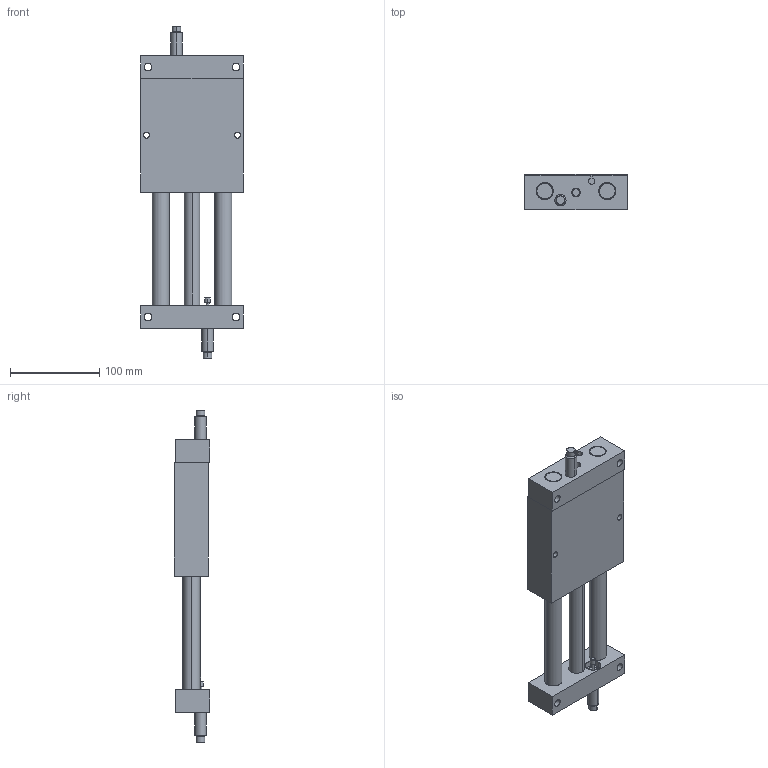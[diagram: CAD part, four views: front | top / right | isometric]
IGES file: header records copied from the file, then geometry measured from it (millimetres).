
Start section: SolidWorks IGES file using analytic representation for surfaces
Global section: file name: C:\Users\jmkuhnes\Pictures\My Transfers\AGSL\AGSL-5\AGSL-5 with SHOCKS in IN.IGS; native system: SolidWorks 2013; preprocessor: SolidWorks 2013; author: jmkuhnes; date: 141107.105820; units: inch
Bounding box: 114.3 x 39.7 x 371.07 mm (x, y, z)
Surface area: 174764.5 mm2 (no closed solid volume)
Topology: 0 solids, 0 shells, 192 faces, 4508 edges, 4504 vertices
Faces by surface type: revolution 134, bspline 58
